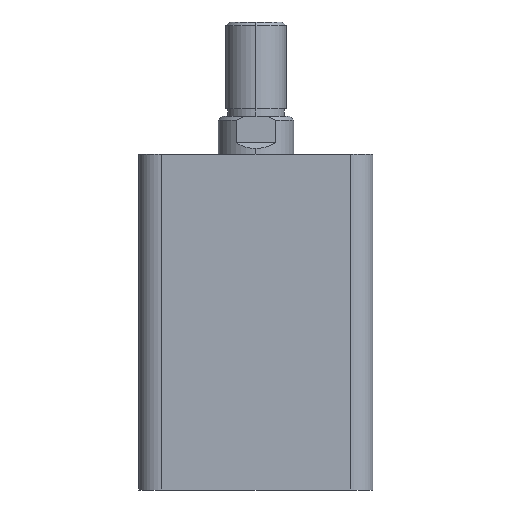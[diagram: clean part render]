
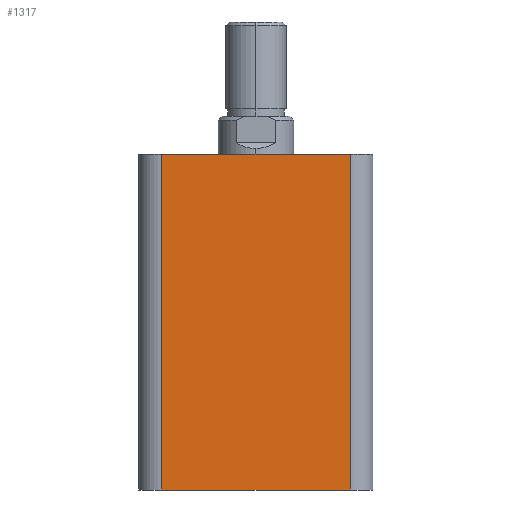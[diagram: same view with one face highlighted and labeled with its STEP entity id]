
A CAD part, left-side view. The second image highlights one B-rep face of the part: STEP entity #1317.
In plain terms, the highlighted planar face has unit normal (-1, 0, 0).
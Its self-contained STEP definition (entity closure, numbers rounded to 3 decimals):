
#422 = CARTESIAN_POINT ( 'NONE',  ( -31., -25., 0. ) ) ;
#423 = CARTESIAN_POINT ( 'NONE',  ( -31., 25., 0. ) ) ;
#445 = CARTESIAN_POINT ( 'NONE',  ( -31., -25., 89. ) ) ;
#447 = CARTESIAN_POINT ( 'NONE',  ( -31., 25., 89. ) ) ;
#927 = CARTESIAN_POINT ( 'NONE',  ( -31., 31., 89. ) ) ;
#928 = DIRECTION ( 'NONE',  ( 0., -1., 0. ) ) ;
#1022 = DIRECTION ( 'NONE',  ( 0., -1., 0. ) ) ;
#1024 = CARTESIAN_POINT ( 'NONE',  ( -31., 31., 0. ) ) ;
#1048 = CARTESIAN_POINT ( 'NONE',  ( -31., -25., 89. ) ) ;
#1049 = DIRECTION ( 'NONE',  ( 0., 0., 1. ) ) ;
#1050 = CARTESIAN_POINT ( 'NONE',  ( -31., 25., 89. ) ) ;
#1051 = DIRECTION ( 'NONE',  ( 0., 0., -1. ) ) ;
#1317 = ADVANCED_FACE ( 'NONE', ( #2544 ), #1964, .F. ) ;
#1612 = EDGE_CURVE ( 'NONE', #3112, #3110, #3727, .T. ) ;
#1961 = DIRECTION ( 'NONE',  ( 0., 0., -1. ) ) ;
#1962 = DIRECTION ( 'NONE',  ( 1., 0., 0. ) ) ;
#1964 = PLANE ( 'NONE',  #3255 ) ;
#1971 = CARTESIAN_POINT ( 'NONE',  ( -31., 31., 89. ) ) ;
#2003 = EDGE_CURVE ( 'NONE', #3088, #3087, #3754, .T. ) ;
#2013 = EDGE_CURVE ( 'NONE', #3087, #3110, #3772, .T. ) ;
#2014 = EDGE_CURVE ( 'NONE', #3112, #3088, #3774, .T. ) ;
#2544 = FACE_OUTER_BOUND ( 'NONE', #4461, .T. ) ;
#3087 = VERTEX_POINT ( 'NONE', #422 ) ;
#3088 = VERTEX_POINT ( 'NONE', #423 ) ;
#3110 = VERTEX_POINT ( 'NONE', #445 ) ;
#3112 = VERTEX_POINT ( 'NONE', #447 ) ;
#3255 = AXIS2_PLACEMENT_3D ( 'NONE', #1971, #1962, #1961 ) ;
#3677 = ORIENTED_EDGE ( 'NONE', *, *, #2003, .T. ) ;
#3678 = ORIENTED_EDGE ( 'NONE', *, *, #2013, .T. ) ;
#3679 = ORIENTED_EDGE ( 'NONE', *, *, #1612, .F. ) ;
#3680 = ORIENTED_EDGE ( 'NONE', *, *, #2014, .T. ) ;
#3727 = LINE ( 'NONE', #927, #3729 ) ;
#3729 = VECTOR ( 'NONE', #928, 1000. ) ;
#3754 = LINE ( 'NONE', #1024, #3758 ) ;
#3758 = VECTOR ( 'NONE', #1022, 1000. ) ;
#3772 = LINE ( 'NONE', #1048, #3775 ) ;
#3774 = LINE ( 'NONE', #1050, #3777 ) ;
#3775 = VECTOR ( 'NONE', #1049, 1000. ) ;
#3777 = VECTOR ( 'NONE', #1051, 1000. ) ;
#4461 = EDGE_LOOP ( 'NONE', ( #3677, #3678, #3679, #3680 ) ) ;
